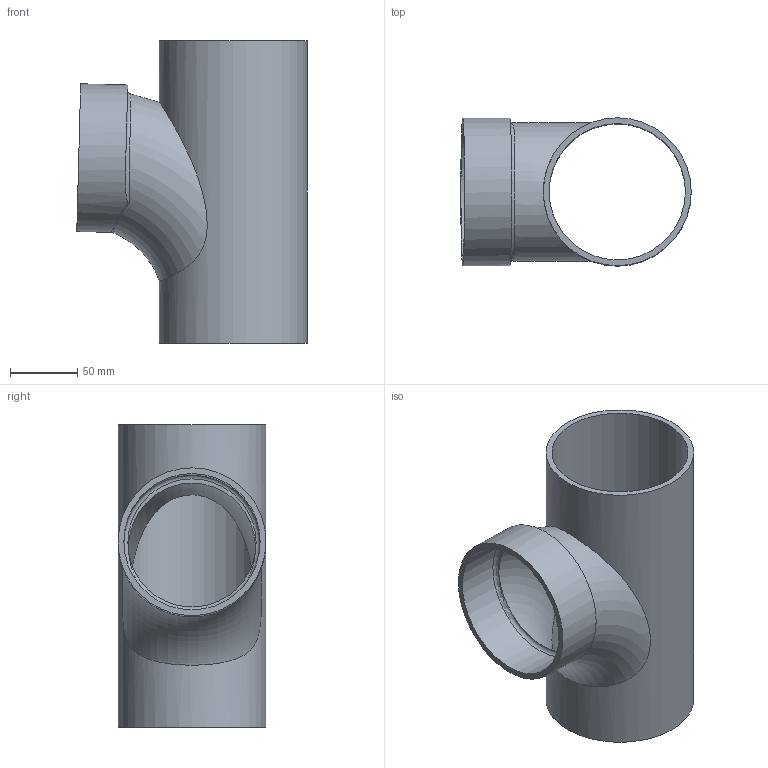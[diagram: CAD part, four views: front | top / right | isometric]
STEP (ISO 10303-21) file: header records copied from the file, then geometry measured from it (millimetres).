
FILE_DESCRIPTION(/* description */ (''),/* implementation_level */ '2;1');
FILE_NAME(/* name */ 'Z:\Geberit\Export\NewStep\367163.stp',/* time_stamp */ '2014-04-02T07:55:56+02:00',/* author */ ('Marco'),/* organization */ (''),/* preprocessor_version */ 'ST-DEVELOPER v15.2',/* originating_system */ 'Autodesk Inventor 2014',/* authorisation */ '');
FILE_SCHEMA (('AUTOMOTIVE_DESIGN { 1 0 10303 214 3 1 1 }'));
Length unit declared in the file: millimetre
Products named in the file (1): 367163
Bounding box: 171.4 x 110 x 225 mm (x, y, z)
Volume: 391205.8 mm3; surface area: 187381.3 mm2
Topology: 1 solids, 1 shells, 15 faces, 35 edges, 23 vertices
Faces by surface type: plane 6, cylinder 4, torus 3, bspline 2
Full cylindrical faces by diameter (mm): 101.4 x2, 110 x2
Entity records: 912 total; most frequent: CARTESIAN_POINT 611, ORIENTED_EDGE 50, DIRECTION 48, EDGE_LOOP 27, EDGE_CURVE 25, AXIS2_PLACEMENT_3D 24, VERTEX_POINT 20, FACE_BOUND 16
